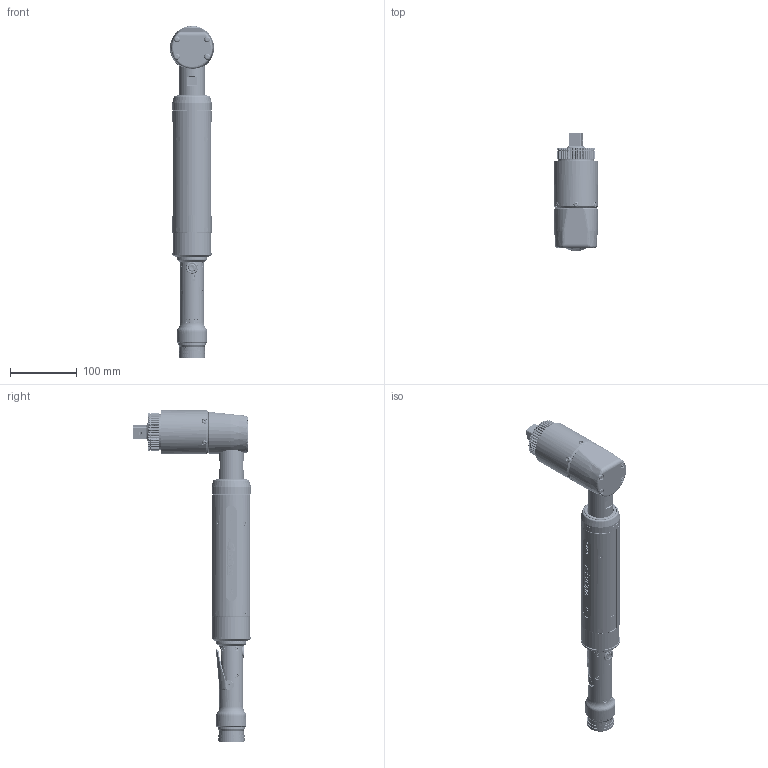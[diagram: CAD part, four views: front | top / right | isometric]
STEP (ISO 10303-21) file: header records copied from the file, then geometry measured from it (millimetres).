
FILE_DESCRIPTION (( 'STEP AP214' ), '1' );
FILE_NAME ('AEN356910AG.STEP', '2019-06-24T20:11:51', ( '' ), ( '' ), 'SwSTEP 2.0', 'SolidWorks 2018', '' );
FILE_SCHEMA (( 'AUTOMOTIVE_DESIGN' ));
Length unit declared in the file: inch
Products named in the file (1): AEN356910AG
Bounding box: 65.79 x 176.02 x 495.81 mm (x, y, z)
Surface area: 394774.3 mm2 (no closed solid volume)
Topology: 0 solids, 81 shells, 6078 faces, 15399 edges, 9667 vertices
Faces by surface type: plane 1976, cylinder 1913, cone 824, bspline 724, torus 565, sphere 76
Entity records: 350973 total; most frequent: CARTESIAN_POINT 130079, ORIENTED_EDGE 30568, DIRECTION 28051, EDGE_CURVE 15296, AXIS2_PLACEMENT_3D 11088, VERTEX_POINT 9659, EDGE_LOOP 6683, DIMENSIONAL_EXPONENTS 6159
